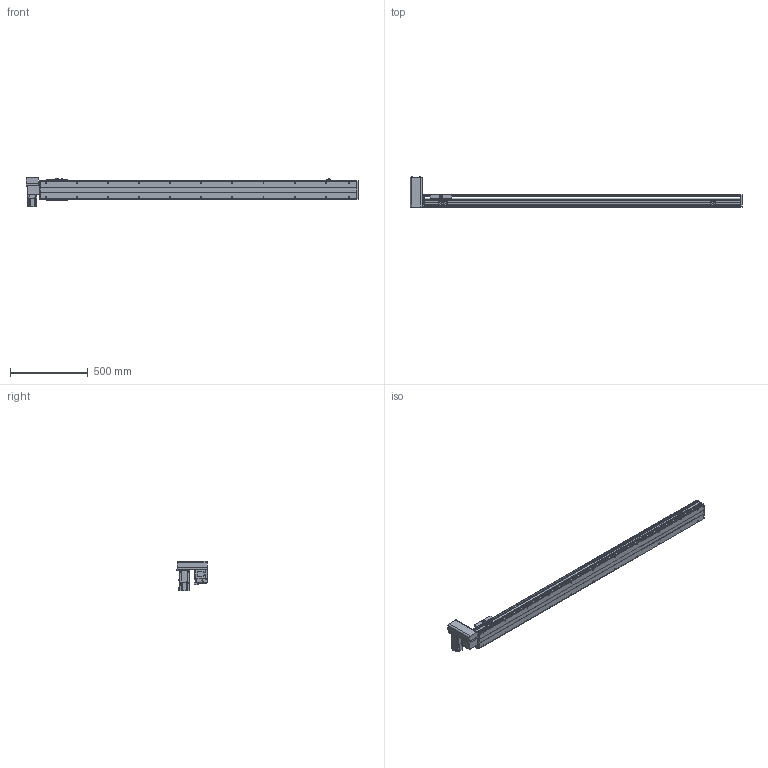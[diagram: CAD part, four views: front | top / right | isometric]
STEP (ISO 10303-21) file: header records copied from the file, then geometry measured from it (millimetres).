
FILE_DESCRIPTION(/* description */ ('STEP AP214'),/* implementation_level */ '2;1');
FILE_NAME(/* name */ 'PBS120-P40-S1750-RU-T40-C1-N(0)',/* time_stamp */ '2022-06-06T02:50:26+02:00',/* author */ ('License CC BY-ND 4.0'),/* organization */ ('CADENAS'),/* preprocessor_version */ 'ST-DEVELOPER v18.102',/* originating_system */ 'PARTsolutions',/* authorisation */ ' ');
FILE_SCHEMA (('AUTOMOTIVE_DESIGN {1 0 10303 214 3 1 1}'));
Length unit declared in the file: millimetre
Products named in the file (7): PBS120-P40-S1750-RU-T40-C1-N(0); PBS120_sensor; PBS120_plant; PBS120_sliser; T40-p1; PBS120T-RU_motors; PBS120-S1750()_body
Assembly tree (8 placements, depth 2):
  PBS120-P40-S1750-RU-T40-C1-N(0)
    PBS120_sensor  x3
    PBS120_plant
    PBS120_sliser
    T40-p1
    PBS120T-RU_motors
    PBS120-S1750()_body
Bounding box: 2136 x 198 x 189.7 mm (x, y, z)
Volume: 8402509.8 mm3; surface area: 1702360.5 mm2
Topology: 8 solids, 8 shells, 846 faces, 2186 edges, 1405 vertices
Faces by surface type: plane 555, cylinder 235, cone 54, torus 2
Full cylindrical faces by diameter (mm): 2.459 x6, 3.242 x4, 4 x2, 4.134 x4, 4.5 x10, 4.917 x26, 5.5 x11, 6 x2, 6.6 x1, 7 x2, 8.5 x4, 9 x4, 12 x1, 14 x1, 30 x2, 40 x1, 50 x2
Entity records: 21954 total; most frequent: DIRECTION 3812, CARTESIAN_POINT 3731, ORIENTED_EDGE 3538, EDGE_CURVE 1769, AXIS2_PLACEMENT_3D 1292, LINE 1228, VECTOR 1228, VERTEX_POINT 1211
